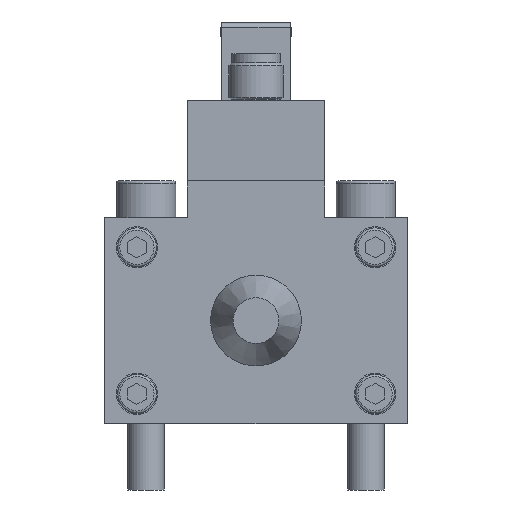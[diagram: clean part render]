
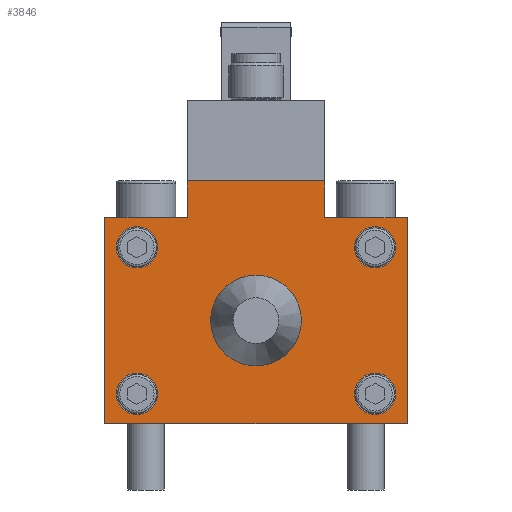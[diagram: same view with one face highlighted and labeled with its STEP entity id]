
A CAD part, left-side view. The second image highlights one B-rep face of the part: STEP entity #3846.
In plain terms, the highlighted planar face has unit normal (-1, 0, 0).
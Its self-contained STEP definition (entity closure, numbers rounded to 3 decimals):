
#1183=CARTESIAN_POINT('',(-84.0,-26.,11.5));
#1184=VERTEX_POINT('',#1183);
#1185=CARTESIAN_POINT('',(-84.0,-26.,16.));
#1186=DIRECTION('',(1.0,0.0,0.0));
#1187=DIRECTION('',(0.0,0.0,1.0));
#1188=AXIS2_PLACEMENT_3D('',#1185,#1186,#1187);
#1189=CIRCLE('',#1188,4.5);
#1190=EDGE_CURVE('',#1184,#1184,#1189,.T.);
#1223=CARTESIAN_POINT('',(-84.0,26.,11.5));
#1224=VERTEX_POINT('',#1223);
#1225=CARTESIAN_POINT('',(-84.0,26.,16.));
#1226=DIRECTION('',(1.0,0.0,0.0));
#1227=DIRECTION('',(0.0,0.0,1.0));
#1228=AXIS2_PLACEMENT_3D('',#1225,#1226,#1227);
#1229=CIRCLE('',#1228,4.5);
#1230=EDGE_CURVE('',#1224,#1224,#1229,.T.);
#1263=CARTESIAN_POINT('',(-84.0,26.,-20.5));
#1264=VERTEX_POINT('',#1263);
#1265=CARTESIAN_POINT('',(-84.0,26.,-16.));
#1266=DIRECTION('',(1.0,0.0,0.0));
#1267=DIRECTION('',(0.0,0.0,1.0));
#1268=AXIS2_PLACEMENT_3D('',#1265,#1266,#1267);
#1269=CIRCLE('',#1268,4.5);
#1270=EDGE_CURVE('',#1264,#1264,#1269,.T.);
#1303=CARTESIAN_POINT('',(-84.0,-26.,-20.5));
#1304=VERTEX_POINT('',#1303);
#1305=CARTESIAN_POINT('',(-84.0,-26.,-16.));
#1306=DIRECTION('',(1.0,0.0,0.0));
#1307=DIRECTION('',(0.0,0.0,1.0));
#1308=AXIS2_PLACEMENT_3D('',#1305,#1306,#1307);
#1309=CIRCLE('',#1308,4.5);
#1310=EDGE_CURVE('',#1304,#1304,#1309,.T.);
#3752=CARTESIAN_POINT('',(-84.0,-33.0,0.0));
#3753=DIRECTION('',(-1.0,0.0,0.0));
#3754=DIRECTION('',(0.0,0.0,1.0));
#3755=AXIS2_PLACEMENT_3D('',#3752,#3753,#3754);
#3756=PLANE('',#3755);
#3757=CARTESIAN_POINT('',(-84.0,33.0,-22.5));
#3758=VERTEX_POINT('',#3757);
#3759=CARTESIAN_POINT('',(-84.0,-33.0,-22.5));
#3760=VERTEX_POINT('',#3759);
#3761=CARTESIAN_POINT('',(-84.0,33.0,-22.5));
#3762=DIRECTION('',(0.0,-1.0,0.0));
#3763=VECTOR('',#3762,66.0);
#3764=LINE('',#3761,#3763);
#3765=EDGE_CURVE('',#3758,#3760,#3764,.T.);
#3766=ORIENTED_EDGE('',*,*,#3765,.T.);
#3767=CARTESIAN_POINT('',(-84.0,-33.0,22.5));
#3768=VERTEX_POINT('',#3767);
#3769=CARTESIAN_POINT('',(-84.0,-33.0,22.5));
#3770=DIRECTION('',(0.0,0.0,-1.0));
#3771=VECTOR('',#3770,45.0);
#3772=LINE('',#3769,#3771);
#3773=EDGE_CURVE('',#3768,#3760,#3772,.T.);
#3774=ORIENTED_EDGE('',*,*,#3773,.F.);
#3775=CARTESIAN_POINT('',(-84.0,-15.0,22.5));
#3776=VERTEX_POINT('',#3775);
#3777=CARTESIAN_POINT('',(-84.0,-33.0,22.5));
#3778=DIRECTION('',(0.0,1.0,0.0));
#3779=VECTOR('',#3778,18.0);
#3780=LINE('',#3777,#3779);
#3781=EDGE_CURVE('',#3768,#3776,#3780,.T.);
#3782=ORIENTED_EDGE('',*,*,#3781,.T.);
#3783=CARTESIAN_POINT('',(-84.0,-15.0,30.5));
#3784=VERTEX_POINT('',#3783);
#3785=CARTESIAN_POINT('',(-84.0,-15.0,22.5));
#3786=DIRECTION('',(0.0,0.0,1.0));
#3787=VECTOR('',#3786,8.0);
#3788=LINE('',#3785,#3787);
#3789=EDGE_CURVE('',#3776,#3784,#3788,.T.);
#3790=ORIENTED_EDGE('',*,*,#3789,.T.);
#3791=CARTESIAN_POINT('',(-84.0,15.0,30.5));
#3792=VERTEX_POINT('',#3791);
#3793=CARTESIAN_POINT('',(-84.0,-15.0,30.5));
#3794=DIRECTION('',(0.0,1.0,0.0));
#3795=VECTOR('',#3794,30.0);
#3796=LINE('',#3793,#3795);
#3797=EDGE_CURVE('',#3784,#3792,#3796,.T.);
#3798=ORIENTED_EDGE('',*,*,#3797,.T.);
#3799=CARTESIAN_POINT('',(-84.0,15.0,22.5));
#3800=VERTEX_POINT('',#3799);
#3801=CARTESIAN_POINT('',(-84.0,15.0,22.5));
#3802=DIRECTION('',(0.0,0.0,1.0));
#3803=VECTOR('',#3802,8.0);
#3804=LINE('',#3801,#3803);
#3805=EDGE_CURVE('',#3800,#3792,#3804,.T.);
#3806=ORIENTED_EDGE('',*,*,#3805,.F.);
#3807=CARTESIAN_POINT('',(-84.0,33.0,22.5));
#3808=VERTEX_POINT('',#3807);
#3809=CARTESIAN_POINT('',(-84.0,15.0,22.5));
#3810=DIRECTION('',(0.0,1.0,0.0));
#3811=VECTOR('',#3810,18.0);
#3812=LINE('',#3809,#3811);
#3813=EDGE_CURVE('',#3800,#3808,#3812,.T.);
#3814=ORIENTED_EDGE('',*,*,#3813,.T.);
#3815=CARTESIAN_POINT('',(-84.0,33.0,-22.5));
#3816=DIRECTION('',(0.0,0.0,1.0));
#3817=VECTOR('',#3816,45.0);
#3818=LINE('',#3815,#3817);
#3819=EDGE_CURVE('',#3758,#3808,#3818,.T.);
#3820=ORIENTED_EDGE('',*,*,#3819,.F.);
#3821=EDGE_LOOP('',(#3766,#3774,#3782,#3790,#3798,#3806,#3814,#3820));
#3822=FACE_OUTER_BOUND('',#3821,.T.);
#3823=ORIENTED_EDGE('',*,*,#1190,.T.);
#3824=EDGE_LOOP('',(#3823));
#3825=FACE_BOUND('',#3824,.T.);
#3826=ORIENTED_EDGE('',*,*,#1230,.T.);
#3827=EDGE_LOOP('',(#3826));
#3828=FACE_BOUND('',#3827,.T.);
#3829=ORIENTED_EDGE('',*,*,#1270,.T.);
#3830=EDGE_LOOP('',(#3829));
#3831=FACE_BOUND('',#3830,.T.);
#3832=ORIENTED_EDGE('',*,*,#1310,.T.);
#3833=EDGE_LOOP('',(#3832));
#3834=FACE_BOUND('',#3833,.T.);
#3835=CARTESIAN_POINT('',(-84.0,0.,9.914));
#3836=VERTEX_POINT('',#3835);
#3837=CARTESIAN_POINT('',(-84.0,0.0,0.0));
#3838=DIRECTION('',(1.0,0.0,0.0));
#3839=DIRECTION('',(0.0,0.0,-1.0));
#3840=AXIS2_PLACEMENT_3D('',#3837,#3838,#3839);
#3841=CIRCLE('',#3840,9.914);
#3842=EDGE_CURVE('',#3836,#3836,#3841,.T.);
#3843=ORIENTED_EDGE('',*,*,#3842,.T.);
#3844=EDGE_LOOP('',(#3843));
#3845=FACE_BOUND('',#3844,.T.);
#3846=ADVANCED_FACE('',(#3822,#3825,#3828,#3831,#3834,#3845),#3756,.T.);
